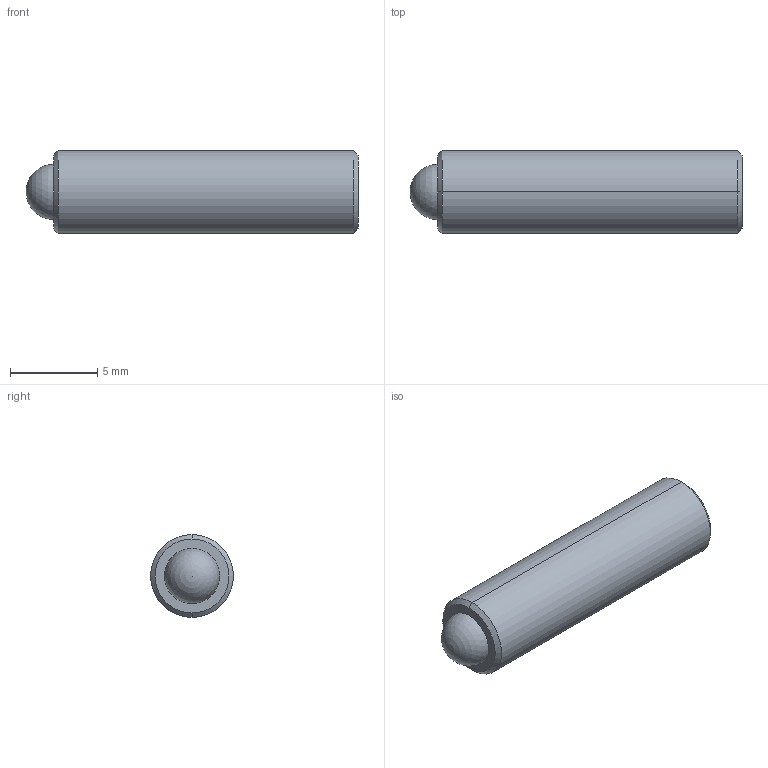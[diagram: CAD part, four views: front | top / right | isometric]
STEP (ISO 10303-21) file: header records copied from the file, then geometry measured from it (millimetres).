
FILE_DESCRIPTION (( 'STEP AP214' ), '1' );
FILE_NAME ('TS187-100-750.STEP', '2013-02-11T15:58:01', ( 'workpc' ), ( 'Microsoft' ), 'SwSTEP 2.0', 'SolidWorks 2013', '' );
FILE_SCHEMA (( 'AUTOMOTIVE_DESIGN' ));
Length unit declared in the file: inch
Products named in the file (1): TS187-100-750
Bounding box: 19.05 x 4.75 x 4.75 mm (x, y, z)
Volume: 304.9 mm3; surface area: 354.6 mm2
Topology: 2 solids, 2 shells, 20 faces, 45 edges, 29 vertices
Faces by surface type: plane 10, cylinder 4, cone 4, sphere 2
Entity records: 599 total; most frequent: DIRECTION 96, CARTESIAN_POINT 87, ORIENTED_EDGE 80, EDGE_CURVE 40, AXIS2_PLACEMENT_3D 35, LINE 26, VERTEX_POINT 26, VECTOR 26
